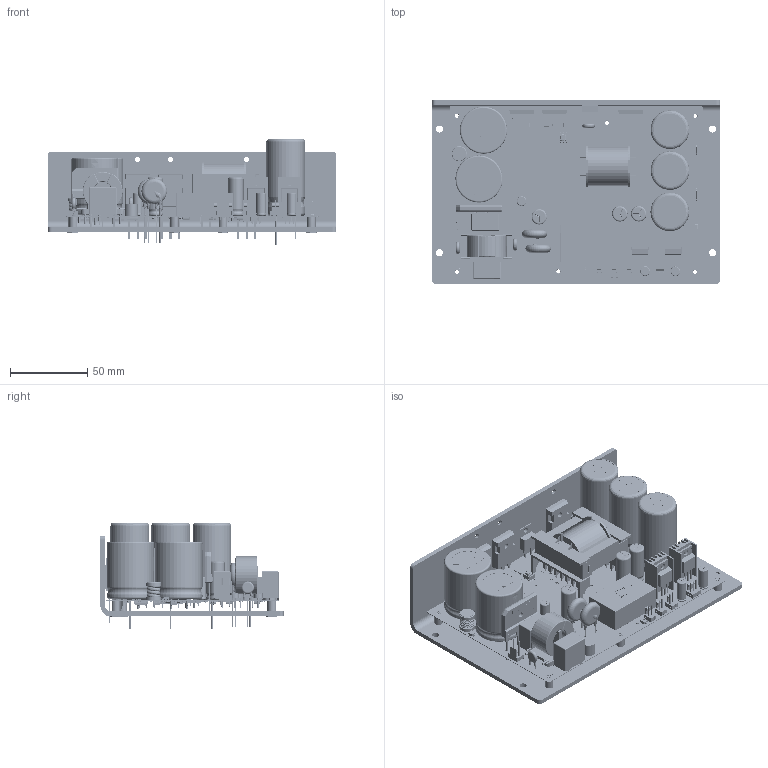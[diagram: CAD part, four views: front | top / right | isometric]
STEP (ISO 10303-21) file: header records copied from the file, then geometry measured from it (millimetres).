
FILE_DESCRIPTION(('Open CASCADE Model'),'2;1');
FILE_NAME('Open CASCADE Shape Model','2024-04-21T00:08:42',('Author'),( 'Open CASCADE'),'Open CASCADE STEP processor 6.8','Open CASCADE 6.8' ,'Unknown');
FILE_SCHEMA(('AUTOMOTIVE_DESIGN { 1 0 10303 214 1 1 1 1 }'));
Length unit declared in the file: millimetre
Products named in the file (286): PCB; Board; Open CASCADE STEP translator 6.8 1.1.1; R17; User_Library-Resistor0805; R211; SW3dPS-1206_SMD_Resistor; R94; OPTOT; User_Library-LTV-356T; F4; U?; User_Library-IRM-03; 6385542592; Extruded; JS2; 7356742272; Open CASCADE STEP translator 6.8 1.8.1.1; Open CASCADE STEP translator 6.8 1.8.1.2; C25; User_Library-Cap-EL(10x25-5); R10; R8; R6; R5; Q1; User_Library-SOT95P240X110-3M[SOT23-3_TO-236AB]; OPTO1; CN2; 022112022; Open CASCADE STEP translator 6.8 1.16.1.1; Open CASCADE STEP translator 6.8 1.16.1.2; C6; User_Library-C0805-2; R35; R30; OPTO3; C31; LED3; 6385544352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
Assembly tree (470 placements, depth 5):
  PCB
    Board
      Open CASCADE STEP translator 6.8 1.1.1
    R17
      User_Library-Resistor0805
    R211
      SW3dPS-1206_SMD_Resistor
    R94
      User_Library-Resistor0805
    OPTOT
      User_Library-LTV-356T
    F4
      SW3dPS-1206_SMD_Resistor
    U?
      User_Library-IRM-03
      6385542592
        Extruded
    JS2
      7356742272
        Open CASCADE STEP translator 6.8 1.8.1.1
        Open CASCADE STEP translator 6.8 1.8.1.2
    C25
      User_Library-Cap-EL(10x25-5)
    R10
      User_Library-Resistor0805
    R8
      User_Library-Resistor0805
    R6
      User_Library-Resistor0805
    R5
      User_Library-Resistor0805
    Q1
      User_Library-SOT95P240X110-3M[SOT23-3_TO-236AB]
    OPTO1
      User_Library-LTV-356T
    CN2
      022112022
        Open CASCADE STEP translator 6.8 1.16.1.1
        Open CASCADE STEP translator 6.8 1.16.1.2
      6385542592
        Extruded
    C6
      User_Library-C0805-2
    R35
      User_Library-Resistor0805
    R30
      User_Library-Resistor0805
    OPTO3
      User_Library-LTV-356T
    C31
      User_Library-C0805-2
    LED3
      6385544352
      6385544592
        Extruded
      6473337680
        Extruded
      6473332560
        Extruded
      6385534832
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Bounding box: 186.62 x 118.56 x 69 mm (x, y, z)
Volume: 303391.7 mm3; surface area: 220215.8 mm2
Topology: 339 solids, 342 shells, 19971 faces, 50590 edges, 31014 vertices
Faces by surface type: plane 8944, bspline 5004, cylinder 4409, sphere 966, torus 552, cone 92, revolution 4
Full cylindrical faces by diameter (mm): 0.163 x2, 0.385 x1, 0.762 x26, 0.8 x47, 0.812 x6, 0.9 x2, 0.966 x5, 1 x2, 1.016 x6, 1.1 x6, 1.118 x8, 1.194 x2, 1.2 x6, 1.396 x2, 1.4 x2, 1.5 x17, 1.562 x14, 1.6 x4, 1.762 x1, 2 x1, 2.006 x10, 3 x12, 3.1 x1, 3.5 x5, 8.5 x1, 12.8 x2, 13.1 x3, 15.1 x1, 15.2 x1, 25 x1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
Entity records: 264861 total; most frequent: CARTESIAN_POINT 99409, ORIENTED_EDGE 29560, DIRECTION 24670, EDGE_CURVE 14780, VERTEX_POINT 9515, LINE 8952, VECTOR 8952, AXIS2_PLACEMENT_3D 7857
